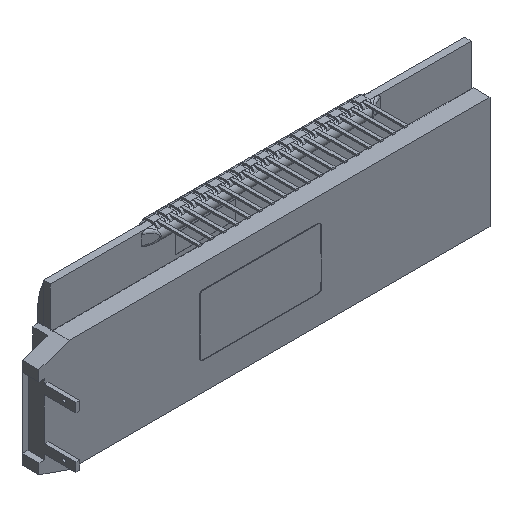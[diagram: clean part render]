
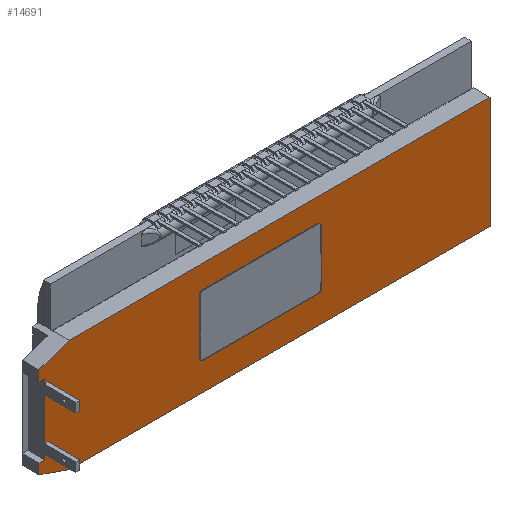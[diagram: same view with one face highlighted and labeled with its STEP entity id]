
A CAD part, isometric view. The second image highlights one B-rep face of the part: STEP entity #14691.
In plain terms, the highlighted planar face has unit normal (0, -1, 0).
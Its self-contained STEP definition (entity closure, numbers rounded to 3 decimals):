
#16 = CARTESIAN_POINT ( 'NONE',  ( -12.596, 43.058, 64.483 ) ) ;
#19 = VERTEX_POINT ( 'NONE', #8401 ) ;
#36 = CARTESIAN_POINT ( 'NONE',  ( -12.596, 43.058, 45.983 ) ) ;
#95 = LINE ( 'NONE', #11712, #189 ) ;
#101 = CARTESIAN_POINT ( 'NONE',  ( -16.696, 43.058, 58.733 ) ) ;
#189 = VECTOR ( 'NONE', #7427, 1000. ) ;
#350 = ORIENTED_EDGE ( 'NONE', *, *, #13084, .F. ) ;
#568 = PLANE ( 'NONE',  #17691 ) ;
#613 = DIRECTION ( 'NONE',  ( -0.944, 0., 0.33 ) ) ;
#735 = DIRECTION ( 'NONE',  ( 0., 0., -1. ) ) ;
#807 = VECTOR ( 'NONE', #8884, 1000. ) ;
#975 = DIRECTION ( 'NONE',  ( -1., 0., 0. ) ) ;
#1274 = CARTESIAN_POINT ( 'NONE',  ( -16.096, 43.058, 50.233 ) ) ;
#1428 = VECTOR ( 'NONE', #10901, 1000. ) ;
#1560 = VECTOR ( 'NONE', #8528, 1000. ) ;
#1694 = ORIENTED_EDGE ( 'NONE', *, *, #9890, .F. ) ;
#1813 = ORIENTED_EDGE ( 'NONE', *, *, #9357, .F. ) ;
#2062 = ORIENTED_EDGE ( 'NONE', *, *, #17943, .T. ) ;
#2293 = EDGE_CURVE ( 'NONE', #8266, #12285, #7135, .T. ) ;
#2362 = EDGE_CURVE ( 'NONE', #6836, #4259, #2634, .T. ) ;
#2422 = ORIENTED_EDGE ( 'NONE', *, *, #5709, .F. ) ;
#2529 = EDGE_CURVE ( 'NONE', #12285, #5808, #16558, .T. ) ;
#2634 = LINE ( 'NONE', #2727, #5351 ) ;
#2727 = CARTESIAN_POINT ( 'NONE',  ( -16.096, 43.058, 51.733 ) ) ;
#2828 = CARTESIAN_POINT ( 'NONE',  ( 56.904, 43.058, 64.483 ) ) ;
#3204 = CARTESIAN_POINT ( 'NONE',  ( -16.696, 43.058, 45.983 ) ) ;
#3298 = CARTESIAN_POINT ( 'NONE',  ( -16.696, 43.058, 51.733 ) ) ;
#3502 = ORIENTED_EDGE ( 'NONE', *, *, #8137, .F. ) ;
#3687 = CARTESIAN_POINT ( 'NONE',  ( -17.596, 43.058, 47.733 ) ) ;
#3706 = CARTESIAN_POINT ( 'NONE',  ( -17.596, 43.058, 61.033 ) ) ;
#3786 = VERTEX_POINT ( 'NONE', #15853 ) ;
#4134 = LINE ( 'NONE', #10096, #10695 ) ;
#4147 = VERTEX_POINT ( 'NONE', #19149 ) ;
#4259 = VERTEX_POINT ( 'NONE', #15139 ) ;
#4333 = VERTEX_POINT ( 'NONE', #3706 ) ;
#4636 = DIRECTION ( 'NONE',  ( 1., 0., 0. ) ) ;
#4822 = CARTESIAN_POINT ( 'NONE',  ( 56.904, 43.058, 45.983 ) ) ;
#4829 = CARTESIAN_POINT ( 'NONE',  ( 56.904, 43.058, 45.983 ) ) ;
#5025 = CARTESIAN_POINT ( 'NONE',  ( -12.596, 43.058, 45.983 ) ) ;
#5041 = ORIENTED_EDGE ( 'NONE', *, *, #18131, .F. ) ;
#5161 = CARTESIAN_POINT ( 'NONE',  ( -17.596, 43.058, 47.733 ) ) ;
#5351 = VECTOR ( 'NONE', #11788, 1000. ) ;
#5469 = DIRECTION ( 'NONE',  ( 0., 0., 1. ) ) ;
#5709 = EDGE_CURVE ( 'NONE', #19287, #7406, #10256, .T. ) ;
#5744 = EDGE_CURVE ( 'NONE', #13673, #13899, #6147, .T. ) ;
#5808 = VERTEX_POINT ( 'NONE', #7709 ) ;
#5886 = VECTOR ( 'NONE', #10634, 1000. ) ;
#6147 = LINE ( 'NONE', #3204, #1428 ) ;
#6347 = CARTESIAN_POINT ( 'NONE',  ( -16.696, 43.058, 50.233 ) ) ;
#6646 = DIRECTION ( 'NONE',  ( 0., 0., 1. ) ) ;
#6836 = VERTEX_POINT ( 'NONE', #8939 ) ;
#6859 = EDGE_CURVE ( 'NONE', #13899, #9677, #16532, .T. ) ;
#6937 = CARTESIAN_POINT ( 'NONE',  ( -16.096, 43.058, 58.733 ) ) ;
#6962 = ORIENTED_EDGE ( 'NONE', *, *, #6859, .F. ) ;
#6965 = VERTEX_POINT ( 'NONE', #5025 ) ;
#6973 = VECTOR ( 'NONE', #613, 1000. ) ;
#6994 = EDGE_CURVE ( 'NONE', #7406, #4147, #16823, .T. ) ;
#7129 = EDGE_CURVE ( 'NONE', #19, #8266, #16279, .T. ) ;
#7135 = LINE ( 'NONE', #13070, #8482 ) ;
#7153 = VECTOR ( 'NONE', #16723, 1000. ) ;
#7297 = ORIENTED_EDGE ( 'NONE', *, *, #2293, .F. ) ;
#7406 = VERTEX_POINT ( 'NONE', #14773 ) ;
#7427 = DIRECTION ( 'NONE',  ( 0., 0., 1. ) ) ;
#7644 = LINE ( 'NONE', #10655, #15435 ) ;
#7709 = CARTESIAN_POINT ( 'NONE',  ( -16.696, 43.058, 61.033 ) ) ;
#8137 = EDGE_CURVE ( 'NONE', #9677, #6836, #16979, .T. ) ;
#8266 = VERTEX_POINT ( 'NONE', #19222 ) ;
#8317 = CARTESIAN_POINT ( 'NONE',  ( -16.096, 43.058, 50.233 ) ) ;
#8400 = CARTESIAN_POINT ( 'NONE',  ( -16.696, 43.058, 60.233 ) ) ;
#8401 = CARTESIAN_POINT ( 'NONE',  ( -16.096, 43.058, 58.733 ) ) ;
#8482 = VECTOR ( 'NONE', #975, 1000. ) ;
#8528 = DIRECTION ( 'NONE',  ( 0.944, 0., 0.33 ) ) ;
#8552 = VERTEX_POINT ( 'NONE', #5161 ) ;
#8880 = VECTOR ( 'NONE', #4636, 1000. ) ;
#8884 = DIRECTION ( 'NONE',  ( 1., 0., 0. ) ) ;
#8908 = VERTEX_POINT ( 'NONE', #10410 ) ;
#8939 = CARTESIAN_POINT ( 'NONE',  ( -16.096, 43.058, 51.733 ) ) ;
#9013 = VECTOR ( 'NONE', #10800, 1000. ) ;
#9357 = EDGE_CURVE ( 'NONE', #4333, #8908, #18441, .T. ) ;
#9416 = VECTOR ( 'NONE', #6646, 1000. ) ;
#9677 = VERTEX_POINT ( 'NONE', #1274 ) ;
#9814 = ORIENTED_EDGE ( 'NONE', *, *, #11202, .F. ) ;
#9890 = EDGE_CURVE ( 'NONE', #8552, #12594, #15793, .T. ) ;
#10079 = LINE ( 'NONE', #17763, #1560 ) ;
#10096 = CARTESIAN_POINT ( 'NONE',  ( -16.696, 43.058, 61.033 ) ) ;
#10256 = LINE ( 'NONE', #2828, #807 ) ;
#10315 = ORIENTED_EDGE ( 'NONE', *, *, #7129, .F. ) ;
#10410 = CARTESIAN_POINT ( 'NONE',  ( -17.596, 43.058, 62.733 ) ) ;
#10634 = DIRECTION ( 'NONE',  ( 1., 0., 0. ) ) ;
#10639 = VECTOR ( 'NONE', #16597, 1000. ) ;
#10655 = CARTESIAN_POINT ( 'NONE',  ( -17.596, 43.058, 49.433 ) ) ;
#10695 = VECTOR ( 'NONE', #13206, 1000. ) ;
#10756 = EDGE_CURVE ( 'NONE', #13673, #12594, #7644, .T. ) ;
#10800 = DIRECTION ( 'NONE',  ( 0., 0., 1. ) ) ;
#10901 = DIRECTION ( 'NONE',  ( 0., 0., 1. ) ) ;
#10924 = ORIENTED_EDGE ( 'NONE', *, *, #2529, .F. ) ;
#11196 = DIRECTION ( 'NONE',  ( 0., 1., 0. ) ) ;
#11202 = EDGE_CURVE ( 'NONE', #4259, #3786, #95, .T. ) ;
#11325 = CARTESIAN_POINT ( 'NONE',  ( -16.696, 43.058, 49.433 ) ) ;
#11609 = EDGE_LOOP ( 'NONE', ( #7297, #10315, #13352, #9814, #13578, #3502, #6962, #16403, #15366, #1694, #5041, #350, #15040, #2422, #17621, #1813, #2062, #10924 ) ) ;
#11712 = CARTESIAN_POINT ( 'NONE',  ( -16.696, 43.058, 45.983 ) ) ;
#11788 = DIRECTION ( 'NONE',  ( -1., 0., 0. ) ) ;
#12045 = CARTESIAN_POINT ( 'NONE',  ( -16.696, 43.058, 50.233 ) ) ;
#12285 = VERTEX_POINT ( 'NONE', #8400 ) ;
#12594 = VERTEX_POINT ( 'NONE', #18403 ) ;
#13070 = CARTESIAN_POINT ( 'NONE',  ( -16.096, 43.058, 60.233 ) ) ;
#13084 = EDGE_CURVE ( 'NONE', #4147, #6965, #18184, .T. ) ;
#13206 = DIRECTION ( 'NONE',  ( 1., 0., 0. ) ) ;
#13352 = ORIENTED_EDGE ( 'NONE', *, *, #13842, .F. ) ;
#13578 = ORIENTED_EDGE ( 'NONE', *, *, #2362, .F. ) ;
#13673 = VERTEX_POINT ( 'NONE', #11325 ) ;
#13842 = EDGE_CURVE ( 'NONE', #3786, #19, #15023, .T. ) ;
#13871 = VECTOR ( 'NONE', #735, 1000. ) ;
#13899 = VERTEX_POINT ( 'NONE', #6347 ) ;
#13925 = FACE_OUTER_BOUND ( 'NONE', #11609, .T. ) ;
#14327 = DIRECTION ( 'NONE',  ( 0., 0., 1. ) ) ;
#14503 = VECTOR ( 'NONE', #5469, 1000. ) ;
#14691 = ADVANCED_FACE ( 'NONE', ( #13925 ), #568, .F. ) ;
#14773 = CARTESIAN_POINT ( 'NONE',  ( 56.904, 43.058, 64.483 ) ) ;
#14858 = DIRECTION ( 'NONE',  ( -1., 0., 0. ) ) ;
#15023 = LINE ( 'NONE', #101, #5886 ) ;
#15040 = ORIENTED_EDGE ( 'NONE', *, *, #6994, .F. ) ;
#15139 = CARTESIAN_POINT ( 'NONE',  ( -16.696, 43.058, 51.733 ) ) ;
#15366 = ORIENTED_EDGE ( 'NONE', *, *, #10756, .T. ) ;
#15435 = VECTOR ( 'NONE', #14858, 1000. ) ;
#15793 = LINE ( 'NONE', #3687, #17595 ) ;
#15853 = CARTESIAN_POINT ( 'NONE',  ( -16.696, 43.058, 58.733 ) ) ;
#16279 = LINE ( 'NONE', #6937, #14503 ) ;
#16403 = ORIENTED_EDGE ( 'NONE', *, *, #5744, .F. ) ;
#16532 = LINE ( 'NONE', #12045, #8880 ) ;
#16558 = LINE ( 'NONE', #3298, #9013 ) ;
#16597 = DIRECTION ( 'NONE',  ( 0., 0., 1. ) ) ;
#16697 = CARTESIAN_POINT ( 'NONE',  ( -17.596, 43.058, 47.733 ) ) ;
#16723 = DIRECTION ( 'NONE',  ( -1., 0., 0. ) ) ;
#16823 = LINE ( 'NONE', #4829, #13871 ) ;
#16979 = LINE ( 'NONE', #8317, #9416 ) ;
#17050 = CARTESIAN_POINT ( 'NONE',  ( 56.904, 43.058, 45.983 ) ) ;
#17595 = VECTOR ( 'NONE', #14327, 1000. ) ;
#17621 = ORIENTED_EDGE ( 'NONE', *, *, #19297, .F. ) ;
#17691 = AXIS2_PLACEMENT_3D ( 'NONE', #17050, #11196, #18713 ) ;
#17763 = CARTESIAN_POINT ( 'NONE',  ( -17.596, 43.058, 62.733 ) ) ;
#17943 = EDGE_CURVE ( 'NONE', #4333, #5808, #4134, .T. ) ;
#18131 = EDGE_CURVE ( 'NONE', #6965, #8552, #18167, .T. ) ;
#18167 = LINE ( 'NONE', #36, #6973 ) ;
#18184 = LINE ( 'NONE', #4822, #7153 ) ;
#18403 = CARTESIAN_POINT ( 'NONE',  ( -17.596, 43.058, 49.433 ) ) ;
#18441 = LINE ( 'NONE', #16697, #10639 ) ;
#18713 = DIRECTION ( 'NONE',  ( 1., 0., 0. ) ) ;
#19149 = CARTESIAN_POINT ( 'NONE',  ( 56.904, 43.058, 45.983 ) ) ;
#19222 = CARTESIAN_POINT ( 'NONE',  ( -16.096, 43.058, 60.233 ) ) ;
#19287 = VERTEX_POINT ( 'NONE', #16 ) ;
#19297 = EDGE_CURVE ( 'NONE', #8908, #19287, #10079, .T. ) ;
